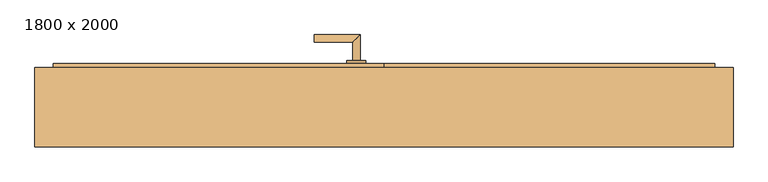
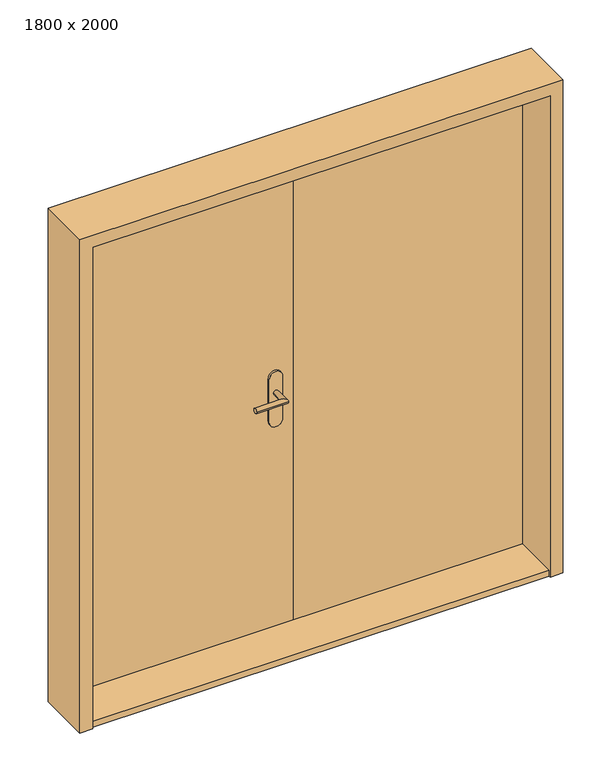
"""IFC4 building model written with IfcOpenShell, lengths in millimetres: door geometry, Dvoukridle oboustrana zaruben : 1800 x 2000."""

from ifc_helpers import new_model, si_unit, point, frame, frame_2d, origin, origin_with_axes, place, context, project, spatial, polyline, circle_curve, ellipse_curve, trimmed, segment, composite_curve, outline, extrude, source, transform, mapped, element, save
from ifc_brep_helpers import plane_surface, cylinder_surface, advanced_brep


def door_1800_x_2000_ad4d3441(model_context):
    return source(origin(), model_context, "Body", "SolidModel", [
        extrude(outline(composite_curve([segment(polyline([(883.5, -69.0), (1061.5, -69.0)]), True, "CONTINUOUS"), segment(trimmed(circle_curve(frame_2d((1061.5, -95.0)), 26.0), [point((1061.5, -69.0))], [point((1061.5, -121.0))], False, "CARTESIAN"), True, "CONTINUOUS"), segment(polyline([(1061.5, -121.0), (883.5, -121.0)]), True, "CONTINUOUS"), segment(trimmed(circle_curve(frame_2d((883.5, -95.0)), 26.0), [point((883.5, -121.0))], [point((883.5, -69.0))], False, "CARTESIAN"), True, "CONTINUOUS")], self_intersect=False)), frame((0.0, 120.0, 0.0), z_axis=(0.0, 1.0, 0.0), x_axis=(0.0, 0.0, 1.0)), (0.0, 0.0, 1.0), 8.0),
        advanced_brep(
        [(-85.0, 128.0, 1000.0), (-105.0, 128.0, 1000.0), (-105.0, 178.0, 1000.0), (-85.0, 198.0, 1000.0), (-210.0, 198.0, 1000.0), (-210.0, 178.0, 1000.0)],
        [
            (0, 1, circle_curve(frame((-95.0, 128.0, 1000.0), z_axis=(0.0, -1.0, 0.0), x_axis=(-1.0, 0.0, 0.0)), 10.0)),
            (1, 0, circle_curve(frame((-95.0, 128.0, 1000.0), z_axis=(0.0, -1.0, 0.0), x_axis=(-1.0, 0.0, 0.0)), 10.0)),
            (1, 2),
            (2, 3, ellipse_curve(frame((-95.0, 188.0, 1000.0), z_axis=(0.7071067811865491, -0.7071067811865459, 0.0), x_axis=(-0.7071067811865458, -0.7071067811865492, 0.0)), 14.1421356, 10.0)),
            (3, 0),
            (3, 2, ellipse_curve(frame((-95.0, 188.0, 1000.0), z_axis=(0.7071067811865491, -0.7071067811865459, 0.0), x_axis=(-0.7071067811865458, -0.7071067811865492, 0.0)), 14.1421356, 10.0)),
            (4, 5, circle_curve(frame((-210.0, 188.0, 1000.0), z_axis=(-1.0, 0.0, 0.0), x_axis=(0.0, -1.0, 0.0)), 10.0)),
            (5, 4, circle_curve(frame((-210.0, 188.0, 1000.0), z_axis=(-1.0, 0.0, 0.0), x_axis=(0.0, -1.0, 0.0)), 10.0)),
            (2, 5),
            (4, 3),
        ],
        [
            plane_surface(frame((-95.0, 128.0, 1000.0), z_axis=(0.0, -1.0, 0.0), x_axis=(0.0, 0.0, 1.0))),
            cylinder_surface(frame((-95.0, 128.0, 1000.0), z_axis=(0.0, -1.0, 0.0), x_axis=(-1.0, 0.0, 0.0)), 10.0),
            plane_surface(frame((-210.0, 188.0, 1000.0), z_axis=(-1.0, 0.0, 0.0), x_axis=(0.0, 0.0, 1.0))),
            cylinder_surface(frame((-95.0, 188.0, 1000.0), z_axis=(1.0, 0.0, 0.0), x_axis=(0.0, -1.0, 0.0)), 10.0),
        ],
        [
            (0, [[1, 2]]),
            (1, [[3, 4, 5, -2]]),
            (1, [[-5, 6, -3, -1]]),
            (2, [[7, 8]]),
            (3, [[9, -7, 10, -4]]),
            (3, [[-10, -8, -9, -6]]),
        ],
    ),
        extrude(outline(composite_curve([segment(polyline([(883.5, -69.0), (1061.5, -69.0)]), True, "CONTINUOUS"), segment(trimmed(circle_curve(frame_2d((1061.5, -95.0)), 26.0), [point((1061.5, -69.0))], [point((1061.5, -121.0))], False, "CARTESIAN"), True, "CONTINUOUS"), segment(polyline([(1061.5, -121.0), (883.5, -121.0)]), True, "CONTINUOUS"), segment(trimmed(circle_curve(frame_2d((883.5, -95.0)), 26.0), [point((883.5, -121.0))], [point((883.5, -69.0))], False, "CARTESIAN"), True, "CONTINUOUS")], self_intersect=False)), frame((0.0, 72.0, 0.0), z_axis=(0.0, 1.0, 0.0), x_axis=(0.0, 0.0, 1.0)), (0.0, 0.0, 1.0), 8.0),
        advanced_brep(
        [(-85.0, 72.0, 1000.0), (-105.0, 72.0, 1000.0), (-85.0, 2.0, 1000.0), (-105.0, 22.0, 1000.0), (-210.0, 2.0, 1000.0), (-210.0, 22.0, 1000.0)],
        [
            (0, 1, circle_curve(frame((-95.0, 72.0, 1000.0), z_axis=(0.0, 1.0, 0.0), x_axis=(-1.0, 0.0, 0.0)), 10.0)),
            (1, 0, circle_curve(frame((-95.0, 72.0, 1000.0), z_axis=(0.0, 1.0, 0.0), x_axis=(-1.0, 0.0, 0.0)), 10.0)),
            (0, 2),
            (2, 3, ellipse_curve(frame((-95.0, 12.0, 1000.0), z_axis=(0.7071067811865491, 0.7071067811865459, 0.0), x_axis=(-0.7071067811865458, 0.7071067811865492, 0.0)), 14.1421356, 10.0)),
            (3, 1),
            (3, 2, ellipse_curve(frame((-95.0, 12.0, 1000.0), z_axis=(0.7071067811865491, 0.7071067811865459, 0.0), x_axis=(-0.7071067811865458, 0.7071067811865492, 0.0)), 14.1421356, 10.0)),
            (4, 5, circle_curve(frame((-210.0, 12.0, 1000.0), z_axis=(-1.0, 0.0, 0.0), x_axis=(0.0, 1.0, 0.0)), 10.0)),
            (5, 4, circle_curve(frame((-210.0, 12.0, 1000.0), z_axis=(-1.0, 0.0, 0.0), x_axis=(0.0, 1.0, 0.0)), 10.0)),
            (2, 4),
            (5, 3),
        ],
        [
            plane_surface(frame((-95.0, 72.0, 1000.0), z_axis=(0.0, 1.0, 0.0), x_axis=(0.0, 0.0, 1.0))),
            cylinder_surface(frame((-95.0, 72.0, 1000.0), z_axis=(0.0, 1.0, 0.0), x_axis=(-1.0, 0.0, 0.0)), 10.0),
            plane_surface(frame((-210.0, 12.0, 1000.0), z_axis=(-1.0, 0.0, 0.0), x_axis=(0.0, 0.0, 1.0))),
            cylinder_surface(frame((-95.0, 12.0, 1000.0), z_axis=(1.0, 0.0, 0.0), x_axis=(0.0, 1.0, 0.0)), 10.0),
        ],
        [
            (0, [[1, 2]]),
            (1, [[-1, 3, 4, 5]]),
            (1, [[-2, -5, 6, -3]]),
            (2, [[7, 8]]),
            (3, [[-4, 9, -8, 10]]),
            (3, [[-6, -10, -7, -9]]),
        ],
    ),
        extrude(outline(polyline([(-20.0, 120.0), (880.0, 120.0), (880.0, 80.0), (-20.0, 80.0), (-20.0, 120.0)])), origin_with_axes(), (0.0, 0.0, 1.0), 2000.0),
        extrude(outline(polyline([(-920.0, 120.0), (-20.0, 120.0), (-20.0, 80.0), (-920.0, 80.0), (-920.0, 120.0)])), origin_with_axes(), (0.0, 0.0, 1.0), 2000.0),
        extrude(outline(polyline([(0.0, 880.0), (0.0, 930.0), (2050.0, 930.0), (2050.0, -970.0), (0.0, -970.0), (0.0, -920.0), (2000.0, -920.0), (2000.0, 880.0), (0.0, 880.0)])), frame((0.0, -108.0, 0.0), z_axis=(0.0, 1.0, 0.0), x_axis=(0.0, 0.0, 1.0)), (0.0, 0.0, 1.0), 216.0),
        extrude(outline(polyline([(880.0, -100.0), (-920.0, -100.0), (-920.0, 80.0), (880.0, 80.0), (880.0, -100.0)])), origin_with_axes(), (0.0, 0.0, 1.0), 25.0),
    ])


if __name__ == "__main__":
    model = new_model("IFC4")
    model_context = context("Model", 3, world=origin())
    ifc_project = project(units=[si_unit("LENGTHUNIT", "METRE", prefix="MILLI")], contexts=[model_context])
    site = spatial("IfcSite", under=ifc_project)
    building = spatial("IfcBuilding", under=site)
    placement = place(None, origin())
    door_1800_x_2000_shape = door_1800_x_2000_ad4d3441(model_context)
    element("IfcDoor", 1, ObjectType="Dvoukridle oboustrana zaruben : 1800 x 2000", at=placement, inside=building, context=model_context, shape_type="MappedRepresentation", body=[
        mapped(door_1800_x_2000_shape, transform((0.0, 0.0, 0.0), x_axis=(1.0, 0.0, 0.0), y_axis=(0.0, 1.0, 0.0), z_axis=(0.0, 0.0, 1.0))),
    ])
    save(model, "model.ifc")
